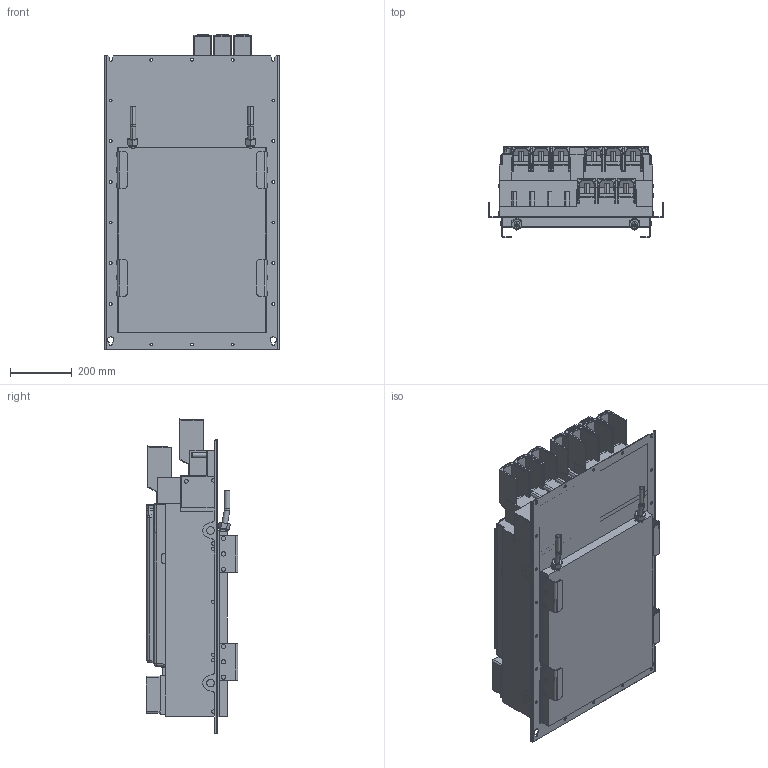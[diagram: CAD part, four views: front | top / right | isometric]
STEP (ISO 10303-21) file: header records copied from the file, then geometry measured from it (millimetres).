
FILE_DESCRIPTION (( 'STEP AP214' ), '1' );
FILE_NAME ('F6-9-TK5-K000.STEP', '2023-11-27T10:23:10', ( '' ), ( '' ), 'SwSTEP 2.0', 'SolidWorks 2022', '' );
FILE_SCHEMA (( 'AUTOMOTIVE_DESIGN' ));
Length unit declared in the file: millimetre
Products named in the file (12): Kundenmodell^10049764_000; Kundenmodell^10068280_000; 10035735_000_Kundenmodell; 10059764_000_Blindabdeckung (Kundenmodell); 10054881_000_Deckel (Kundenmodell); Kundenmodell^10059764_000; 10068280_000_Kundenmodell; 10064843_000_Kundenmodell ; Kundenmodell^10035735_000; F6-9-TK5-K000; 10049764_000_Kundenmodell; Kundenmodell^10054881_000
Assembly tree (11 placements, depth 4):
  F6-9-TK5-K000
    10064843_000_Kundenmodell 
      10068280_000_Kundenmodell
        Kundenmodell^10068280_000
    10049764_000_Kundenmodell
      Kundenmodell^10049764_000
    10035735_000_Kundenmodell
      10059764_000_Blindabdeckung (Kundenmodell)
        Kundenmodell^10059764_000
      Kundenmodell^10035735_000
    10054881_000_Deckel (Kundenmodell)
      Kundenmodell^10054881_000
Bounding box: 566 x 296.5 x 1024.88 mm (x, y, z)
Volume: 93814824 mm3; surface area: 4200461.8 mm2
Topology: 5 solids, 15 shells, 3058 faces, 7913 edges, 4958 vertices
Faces by surface type: plane 1386, cylinder 1019, bspline 266, cone 214, sphere 92, torus 81
Entity records: 101666 total; most frequent: CARTESIAN_POINT 28918, ORIENTED_EDGE 15658, DIRECTION 14387, EDGE_CURVE 7829, VERTEX_POINT 4958, AXIS2_PLACEMENT_3D 4921, LINE 4545, VECTOR 4545
